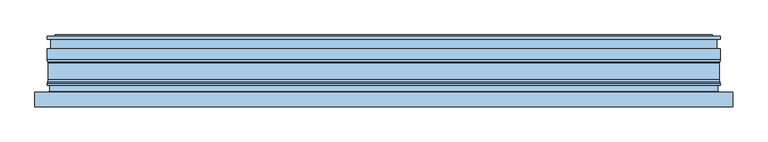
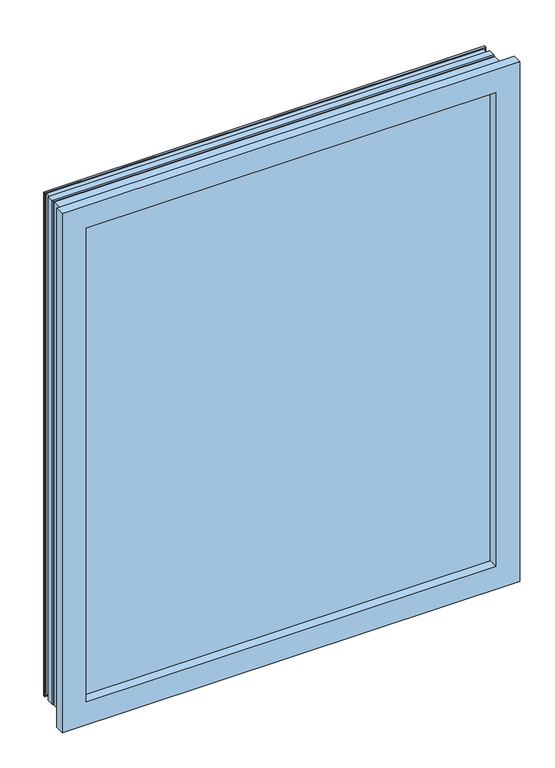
"""IFC4 building model written with IfcOpenShell, lengths in millimetres: window geometry, Comfort+_CVI-1_Metaglas : KozijnMerk."""

import ifcopenshell
import ifcopenshell.guid

model = None  # the IFC model being written
_history = None  # IfcOwnerHistory: only IFC2X3 demands one
_inside = {}  # id of a spatial element -> (the spatial element, [elements in it])
_under = {}  # id of a project, library or spatial element -> (it, [spatial elements below it])
_declared = {}  # id of a project -> (the project, [libraries it declares])
_typed = {}  # id of a type object -> (the type object, [elements of that type])
_made_of = {}  # id of a material, layer set ... -> (it, [elements and type objects made of it])


def new_model(schema):
    """Start an empty IFC model of exactly this schema.

    Asked for "IFC4X3", IfcOpenShell would pick the latest addendum, in which some entities
    have other attributes; the version numbers below select the first issue.
    IFC2X3 requires an IfcOwnerHistory on every rooted entity: one is made here for all.
    """
    global model, _history
    if schema == "IFC4X3":
        model = ifcopenshell.file(schema_version=(4, 3, 0, 0))
    else:
        model = ifcopenshell.file(schema=schema)
    _inside.clear()
    _under.clear()
    _declared.clear()
    _typed.clear()
    _made_of.clear()
    _history = None
    if model.schema == "IFC2X3":
        org = make("IfcOrganization", Name="unknown")
        user = make(
            "IfcPersonAndOrganization",
            ThePerson=make("IfcPerson", FamilyName="unknown"),
            TheOrganization=org,
        )
        app = make(
            "IfcApplication",
            ApplicationDeveloper=org,
            Version="unknown",
            ApplicationFullName="unknown",
            ApplicationIdentifier="unknown",
        )
        _history = make(
            "IfcOwnerHistory",
            OwningUser=user,
            OwningApplication=app,
            ChangeAction="ADDED",
            CreationDate=0,
        )
    return model


def make(cls, **values):
    """One entity of the class cls with the attributes given. An attribute that is None is left unset."""
    return model.create_entity(
        cls, **{name: value for name, value in values.items() if value is not None}
    )


def rooted(cls, **values):
    """An entity with a GlobalId (a new one), such as an element, a storey or a relation."""
    return make(cls, GlobalId=ifcopenshell.guid.new(), OwnerHistory=_history, **values)


def si_unit(unit_type, name, prefix=None):
    """IfcSIUnit, for example si_unit("LENGTHUNIT", "METRE", prefix="MILLI")."""
    return make("IfcSIUnit", UnitType=unit_type, Prefix=prefix, Name=name)


def assignment(units):
    """IfcUnitAssignment: the units of a project."""
    return None if units is None else make("IfcUnitAssignment", Units=units)


def point(xyz):
    """IfcCartesianPoint."""
    return None if xyz is None else make("IfcCartesianPoint", Coordinates=xyz)


def direction(xyz):
    """IfcDirection."""
    return None if xyz is None else make("IfcDirection", DirectionRatios=xyz)


def frame(location, z_axis=None, x_axis=None):
    """IfcAxis2Placement3D, a coordinate frame: its origin and axes. An axis left out is left unset."""
    return make(
        "IfcAxis2Placement3D",
        Location=point(location),
        Axis=direction(z_axis),
        RefDirection=direction(x_axis),
    )


def origin():
    """The frame at (0, 0, 0) with its axes left unset."""
    return frame((0.0, 0.0, 0.0))


def place(relative_to, where):
    """IfcLocalPlacement: puts the frame where relative to a parent placement (None: the world)."""
    return make(
        "IfcLocalPlacement", PlacementRelTo=relative_to, RelativePlacement=where
    )


def context(
    kind, dimensions, precision=None, world=None, true_north=None, identifier=None
):
    """IfcGeometricRepresentationContext, for example the 3D "Model" context."""
    return make(
        "IfcGeometricRepresentationContext",
        ContextIdentifier=identifier,
        ContextType=kind,
        CoordinateSpaceDimension=dimensions,
        Precision=precision,
        WorldCoordinateSystem=world,
        TrueNorth=true_north,
    )


def project(units=None, contexts=None):
    """IfcProject with its units and contexts."""
    return rooted(
        "IfcProject",
        Name="project",
        RepresentationContexts=contexts,
        UnitsInContext=assignment(units),
    )


def spatial(cls, under=None, at=None, **own):
    """A site, building, storey or space (cls), placed at a placement, below another one or the project."""
    s = rooted(cls, ObjectPlacement=at, **own)
    if under is not None:
        _under.setdefault(under.id(), (under, []))[1].append(s)
    return s


def polyline(points):
    """IfcPolyline through the points."""
    return make("IfcPolyline", Points=[point(p) for p in points])


def outline(outer, holes=None, kind="AREA"):
    """IfcArbitraryClosedProfileDef: a profile drawn as a closed curve; with holes, ...WithVoids."""
    if holes is None:
        return make("IfcArbitraryClosedProfileDef", ProfileType=kind, OuterCurve=outer)
    return make(
        "IfcArbitraryProfileDefWithVoids",
        ProfileType=kind,
        OuterCurve=outer,
        InnerCurves=holes,
    )


def extrude(swept, where, along, depth):
    """IfcExtrudedAreaSolid: the profile swept, set in the frame where, extruded along a direction by depth."""
    return make(
        "IfcExtrudedAreaSolid",
        SweptArea=swept,
        Position=where,
        ExtrudedDirection=direction(along),
        Depth=depth,
    )


def faces_of(points, faces, orient=None, outer=None):
    """IfcFace entities. A face is a list of loops; a loop is a list of indices into points, from 0.

    orient and outer hold one flag for each loop. By default every Orientation is true, the
    first loop of a face is its IfcFaceOuterBound and the others are IfcFaceBound.
    """
    made = []
    for i, loops in enumerate(faces):
        bounds = []
        for j, loop in enumerate(loops):
            is_outer = j == 0 if outer is None else outer[i][j]
            bounds.append(
                make(
                    "IfcFaceOuterBound" if is_outer else "IfcFaceBound",
                    Bound=make("IfcPolyLoop", Polygon=[points[k] for k in loop]),
                    Orientation=True if orient is None else orient[i][j],
                )
            )
        made.append(make("IfcFace", Bounds=bounds))
    return made


def faceted_brep(points, faces, orient=None, outer=None, voids=None):
    """IfcFacetedBrep: a solid bounded by flat faces; with voids (closed shells), ...WithVoids."""
    shared = [point(p) for p in points]
    hull = make("IfcClosedShell", CfsFaces=faces_of(shared, faces, orient, outer))
    if voids is None:
        return make("IfcFacetedBrep", Outer=hull)
    return make(
        "IfcFacetedBrepWithVoids",
        Outer=hull,
        Voids=[
            make(cls, CfsFaces=faces_of(shared, fs, o, b)) for cls, fs, o, b in voids
        ],
    )


def shape(context_of_items, identifier, shape_type, items):
    """IfcShapeRepresentation: the items that make up one representation, for example the "Body"."""
    return make(
        "IfcShapeRepresentation",
        ContextOfItems=context_of_items,
        RepresentationIdentifier=identifier,
        RepresentationType=shape_type,
        Items=items,
    )


def source(mapping_origin, context_of_items, identifier, shape_type, items):
    """IfcRepresentationMap: a shape defined once, which mapped items show again and again."""
    return make(
        "IfcRepresentationMap",
        MappingOrigin=mapping_origin,
        MappedRepresentation=shape(context_of_items, identifier, shape_type, items),
    )


def transform(
    local_origin,
    x_axis=None,
    y_axis=None,
    z_axis=None,
    scale=None,
    scale2=None,
    scale3=None,
    uniform=True,
):
    """IfcCartesianTransformationOperator3D, or its non-uniform kind. x_axis, y_axis, z_axis: its Axis1, 2, 3."""
    if uniform:
        return make(
            "IfcCartesianTransformationOperator3D",
            Axis1=direction(x_axis),
            Axis2=direction(y_axis),
            LocalOrigin=point(local_origin),
            Scale=scale,
            Axis3=direction(z_axis),
        )
    return make(
        "IfcCartesianTransformationOperator3DnonUniform",
        Axis1=direction(x_axis),
        Axis2=direction(y_axis),
        LocalOrigin=point(local_origin),
        Scale=scale,
        Axis3=direction(z_axis),
        Scale2=scale2,
        Scale3=scale3,
    )


def mapped(mapping_source, mapping_target):
    """IfcMappedItem: shows the shape of a source again, moved by a transform."""
    return make(
        "IfcMappedItem", MappingSource=mapping_source, MappingTarget=mapping_target
    )


def made_of(thing, what):
    """Note that an element or type object is made of a material, layer set ...; save() writes the relation."""
    if what is not None:
        _made_of.setdefault(what.id(), (what, []))[1].append(thing)
    return thing


def element(
    cls,
    number,
    at=None,
    inside=None,
    cuts=None,
    type_object=None,
    material=None,
    context=None,
    identifier="Body",
    shape_type=None,
    held_by="IfcProductDefinitionShape",
    body=None,
    shapes=None,
    **own,
):
    """One element of the class cls, such as IfcWall. Its Tag is "e" and its number.

    at: its placement. inside: the storey or other place that contains it. cuts: it is an
    opening in that element (IfcRelVoidsElement). A single representation is given by context,
    identifier, shape_type and body (its items); several are given by shapes. held_by: the class
    of the entity that holds the representations. save() writes the other relations.
    """
    e = rooted(cls, Tag="e%d" % number, ObjectPlacement=at, **own)
    if body is not None:
        shapes = [shape(context, identifier, shape_type, body)]
    if shapes is not None:
        e.Representation = make(held_by, Representations=shapes)
    if inside is not None:
        _inside.setdefault(inside.id(), (inside, []))[1].append(e)
    if cuts is not None:
        rooted(
            "IfcRelVoidsElement", RelatingBuildingElement=cuts, RelatedOpeningElement=e
        )
    if type_object is not None:
        _typed.setdefault(type_object.id(), (type_object, []))[1].append(e)
    return made_of(e, material)


def aggregate(whole, parts):
    """IfcRelAggregates: a whole, such as a stair, and the parts it consists of."""
    return rooted("IfcRelAggregates", RelatingObject=whole, RelatedObjects=parts)


def save(model, path):
    """Write the relations noted so far, then the file.

    IfcRelAggregates (storeys below a building ...), IfcRelContainedInSpatialStructure (elements
    in a storey), IfcRelDefinesByType, IfcRelAssociatesMaterial and IfcRelDeclares: one each for
    every whole, place, type object, material and project.
    """
    for whole, parts in _under.values():
        aggregate(whole, parts)
    for where, things in _inside.values():
        rooted(
            "IfcRelContainedInSpatialStructure",
            RelatedElements=things,
            RelatingStructure=where,
        )
    for kind, things in _typed.values():
        rooted("IfcRelDefinesByType", RelatedObjects=things, RelatingType=kind)
    for what, things in _made_of.values():
        rooted("IfcRelAssociatesMaterial", RelatedObjects=things, RelatingMaterial=what)
    for by, libraries in _declared.values():
        rooted("IfcRelDeclares", RelatingContext=by, RelatedDefinitions=libraries)
    model.write(path)


def window_ad6b3518(model_context):
    return source(origin(), model_context, "Body", "SolidModel", [
        extrude(outline(polyline([(464.0, -22.0), (-464.0, -22.0), (-464.0, -16.0), (464.0, -16.0), (464.0, -22.0)])), frame((0.0, 0.0, 836.0), z_axis=(0.0, 0.0, 1.0), x_axis=(1.0, 0.0, 0.0)), (0.0, 0.0, 1.0), 1128.0),
        extrude(outline(polyline([(464.0, -1.0), (-464.0, -1.0), (-464.0, 3.5), (464.0, 3.5), (464.0, -1.0)])), frame((0.0, 0.0, 836.0), z_axis=(0.0, 0.0, 1.0), x_axis=(1.0, 0.0, 0.0)), (0.0, 0.0, 1.0), 1128.0),
        extrude(outline(polyline([(464.0, 18.5), (-464.0, 18.5), (-464.0, 24.5), (464.0, 24.5), (464.0, 18.5)])), frame((0.0, 0.0, 836.0), z_axis=(0.0, 0.0, 1.0), x_axis=(1.0, 0.0, 0.0)), (0.0, 0.0, 1.0), 1128.0),
        extrude(outline(polyline([(1964.0, 464.0), (1964.0, -464.0), (836.0, -464.0), (836.0, 464.0), (1964.0, 464.0)]), holes=[polyline([(848.0, 452.0), (848.0, -452.0), (1952.0, -452.0), (1952.0, 452.0), (848.0, 452.0)])]), frame((0.0, -16.0, 0.0), z_axis=(0.0, 1.0, 0.0), x_axis=(0.0, 0.0, 1.0)), (0.0, 0.0, 1.0), 15.0),
        extrude(outline(polyline([(1964.0, 464.0), (1964.0, -464.0), (836.0, -464.0), (836.0, 464.0), (1964.0, 464.0)]), holes=[polyline([(848.0, 452.0), (848.0, -452.0), (1952.0, -452.0), (1952.0, 452.0), (848.0, 452.0)])]), frame((0.0, 3.5, 0.0), z_axis=(0.0, 1.0, 0.0), x_axis=(0.0, 0.0, 1.0)), (0.0, 0.0, 1.0), 15.0),
        faceted_brep([(-500.0, -29.0, 2000.0), (-500.0, -29.0, 800.0), (-500.0, -50.0, 800.0), (-500.0, -50.0, 2000.0), (500.0, -50.0, 800.0), (500.0, -50.0, 2000.0), (-447.0, -50.0, 853.0), (-447.0, -50.0, 1947.0), (447.0, -50.0, 1947.0), (447.0, -50.0, 853.0), (500.0, -29.0, 800.0), (500.0, -29.0, 2000.0), (-492.8725928, -29.0, 1992.8725928), (-492.8725928, -29.0, 807.1274072), (492.8725928, -29.0, 807.1274072), (492.8725928, -29.0, 1992.8725928), (-492.8725928, -32.3751885, 1992.8725928), (-492.8725928, -32.3751885, 807.1274072), (492.8725928, -32.3751885, 807.1274072), (492.8725928, -32.3751885, 1992.8725928), (-489.0089631, -32.3751885, 1989.0089631), (-489.0089631, -32.3751885, 810.9910369), (489.0089631, -32.3751885, 810.9910369), (489.0089631, -32.3751885, 1989.0089631), (-489.0089631, -29.0, 1989.0089631), (-489.0089631, -29.0, 810.9910369), (489.0089631, -29.0, 810.9910369), (489.0089631, -29.0, 1989.0089631), (-482.0, -29.0, 1982.0), (-482.0, -29.0, 818.0), (482.0, -29.0, 818.0), (482.0, -29.0, 1982.0), (-478.7291119, -27.9608904, 1978.7291119), (-478.7291119, -27.9608904, 821.2708881), (478.7291119, -27.9608904, 821.2708881), (-478.7291119, -19.1940428, 1978.7291119), (-478.7291119, -19.1940428, 821.2708881), (478.7291119, -19.1940428, 821.2708881), (-481.9999978, -19.1940428, 1981.9999978), (-481.9999978, -19.1940428, 818.0000022), (481.9999978, -19.1940428, 818.0000022), (481.9999978, -19.1940428, 1981.9999978), (478.7291119, -19.1940428, 1978.7291119), (-481.9999978, -16.7500005, 1981.9999978), (-481.9999978, -16.7500005, 818.0000022), (481.9999978, -16.7500005, 818.0000022), (-481.373404, -14.4793407, 1981.373404), (-481.373404, -14.4793407, 818.626596), (481.373404, -14.4793407, 818.626596), (-481.1951446, -11.4659389, 1981.1951446), (-481.1951446, -11.4659389, 818.8048554), (481.1951446, -11.4659389, 818.8048554), (-481.1951446, 12.4143973, 1981.1951446), (-481.1951446, 12.4143973, 818.8048554), (481.1951446, 12.4143973, 818.8048554), (-481.3787921, 13.9100865, 1981.3787921), (-481.3787921, 13.9100865, 818.6212079), (481.3787921, 13.9100865, 818.6212079), (-482.0, 17.75, 1982.0), (-482.0, 17.75, 818.0), (482.0, 17.75, 818.0), (-482.0, 33.0, 1982.0), (-482.0, 33.0, 818.0), (482.0, 33.0, 818.0), (482.0, 33.0, 1982.0), (-480.5, 33.0, 1980.5), (-480.5, 33.0, 819.5), (480.5, 33.0, 819.5), (480.5, 33.0, 1980.5), (-480.5, 31.0, 1980.5), (-480.5, 31.0, 819.5), (480.5, 31.0, 819.5), (480.5, 31.0, 1980.5), (-477.5, 31.0, 1977.5), (-477.5, 31.0, 822.5), (477.5, 31.0, 822.5), (477.5, 31.0, 1977.5), (-477.5, 49.0, 1977.5), (-477.5, 49.0, 822.5), (477.5, 49.0, 822.5), (-480.5, 49.0, 1980.5), (-480.5, 49.0, 819.5), (480.5, 49.0, 819.5), (480.5, 49.0, 1980.5), (477.5, 49.0, 1977.5), (-480.5, 47.0, 1980.5), (-480.5, 47.0, 819.5), (480.5, 47.0, 819.5), (-482.0, 47.0, 1982.0), (-482.0, 47.0, 818.0), (482.0, 47.0, 818.0), (482.0, 47.0, 1982.0), (480.5, 47.0, 1980.5), (-482.0, 51.0, 1982.0), (-482.0, 51.0, 818.0), (482.0, 51.0, 818.0), (482.0, 51.0, 1982.0), (-471.1687709, 51.0, 1971.1687709), (-471.1687709, 51.0, 828.8312291), (471.1687709, 51.0, 828.8312291), (471.1687709, 51.0, 1971.1687709), (-471.1687709, 53.0, 1971.1687709), (-471.1687709, 53.0, 828.8312291), (471.1687709, 53.0, 828.8312291), (471.1687709, 53.0, 1971.1687709), (-447.0, 53.0, 1947.0), (-447.0, 53.0, 853.0), (447.0, 53.0, 853.0), (447.0, 53.0, 1947.0), (-447.0, 31.9, 1947.0), (-447.0, 31.9, 853.0), (447.0, 31.9, 853.0), (-450.6430941, 31.9, 1950.6430941), (-450.6430941, 31.9, 849.3569059), (450.6430941, 31.9, 849.3569059), (450.6430941, 31.9, 1950.6430941), (447.0, 31.9, 1947.0), (-450.6430941, 38.7, 1950.6430941), (-450.6430941, 38.7, 849.3569059), (450.6430941, 38.7, 849.3569059), (-454.4569059, 38.7, 1954.4569059), (-454.4569059, 38.7, 845.5430941), (454.4569059, 38.7, 845.5430941), (454.4569059, 38.7, 1954.4569059), (450.6430941, 38.7, 1950.6430941), (-454.4569059, 31.9, 1954.4569059), (-454.4569059, 31.9, 845.5430941), (454.4569059, 31.9, 845.5430941), (-465.0, 31.9, 1965.0), (-465.0, 31.9, 835.0), (465.0, 31.9, 835.0), (465.0, 31.9, 1965.0), (454.4569059, 31.9, 1954.4569059), (-465.0, 17.75, 1965.0), (-465.0, 17.75, 835.0), (465.0, 17.75, 835.0), (-465.6212079, 13.9100865, 1965.6212079), (-465.6212079, 13.9100865, 834.3787921), (465.6212079, 13.9100865, 834.3787921), (-465.8048554, 12.4143973, 1965.8048554), (-465.8048554, 12.4143973, 834.1951446), (465.8048554, 12.4143973, 834.1951446), (-465.8048554, -11.4659389, 1965.8048554), (-465.8048554, -11.4659389, 834.1951446), (465.8048554, -11.4659389, 834.1951446), (-465.626596, -14.4793407, 1965.626596), (-465.626596, -14.4793407, 834.373404), (465.626596, -14.4793407, 834.373404), (-465.0000022, -16.7500005, 1965.0000022), (-465.0000022, -16.7500005, 834.9999978), (465.0000022, -16.7500005, 834.9999978), (-465.0000022, -19.1940428, 1965.0000022), (-465.0000022, -19.1940428, 834.9999978), (465.0000022, -19.1940428, 834.9999978), (-468.2708881, -19.1940428, 1968.2708881), (-468.2708881, -19.1940428, 831.7291119), (468.2708881, -19.1940428, 831.7291119), (468.2708881, -19.1940428, 1968.2708881), (465.0000022, -19.1940428, 1965.0000022), (-468.2708881, -27.9608904, 1968.2708881), (-468.2708881, -27.9608904, 831.7291119), (468.2708881, -27.9608904, 831.7291119), (-465.0, -29.0, 1965.0), (-465.0, -29.0, 835.0), (465.0, -29.0, 835.0), (465.0, -29.0, 1965.0), (-457.9910369, -29.0, 1957.9910369), (-457.9910369, -29.0, 842.0089631), (457.9910369, -29.0, 842.0089631), (457.9910369, -29.0, 1957.9910369), (-457.9910369, -32.3751885, 1957.9910369), (-457.9910369, -32.3751885, 842.0089631), (457.9910369, -32.3751885, 842.0089631), (457.9910369, -32.3751885, 1957.9910369), (-454.1274072, -32.3751885, 1954.1274072), (-454.1274072, -32.3751885, 845.8725928), (454.1274072, -32.3751885, 845.8725928), (454.1274072, -32.3751885, 1954.1274072), (-454.1274072, -29.0, 1954.1274072), (-454.1274072, -29.0, 845.8725928), (454.1274072, -29.0, 845.8725928), (454.1274072, -29.0, 1954.1274072), (-447.0, -29.0, 1947.0), (-447.0, -29.0, 853.0), (447.0, -29.0, 853.0), (447.0, -29.0, 1947.0), (478.7291119, -27.9608904, 1978.7291119), (481.9999978, -16.7500005, 1981.9999978), (481.373404, -14.4793407, 1981.373404), (481.1951446, -11.4659389, 1981.1951446), (481.1951446, 12.4143973, 1981.1951446), (481.3787921, 13.9100865, 1981.3787921), (482.0, 17.75, 1982.0), (465.0, 17.75, 1965.0), (465.6212079, 13.9100865, 1965.6212079), (465.8048554, 12.4143973, 1965.8048554), (465.8048554, -11.4659389, 1965.8048554), (465.626596, -14.4793407, 1965.626596), (465.0000022, -16.7500005, 1965.0000022), (468.2708881, -27.9608904, 1968.2708881)], [[[0, 1, 2, 3]], [[3, 2, 4, 5], [6, 7, 8, 9]], [[1, 10, 4, 2]], [[1, 0, 11, 10], [12, 13, 14, 15]], [[16, 17, 13, 12]], [[17, 18, 14, 13]], [[17, 16, 19, 18], [20, 21, 22, 23]], [[24, 25, 21, 20]], [[25, 26, 22, 21]], [[25, 24, 27, 26], [28, 29, 30, 31]], [[32, 33, 29, 28]], [[33, 34, 30, 29]], [[35, 36, 33, 32]], [[36, 37, 34, 33]], [[38, 39, 40, 41], [36, 35, 42, 37]], [[43, 44, 39, 38]], [[44, 45, 40, 39]], [[46, 47, 44, 43]], [[47, 48, 45, 44]], [[49, 50, 47, 46]], [[50, 51, 48, 47]], [[52, 53, 50, 49]], [[53, 54, 51, 50]], [[55, 56, 53, 52]], [[56, 57, 54, 53]], [[58, 59, 56, 55]], [[59, 60, 57, 56]], [[61, 62, 59, 58]], [[62, 63, 60, 59]], [[62, 61, 64, 63], [65, 66, 67, 68]], [[69, 70, 66, 65]], [[70, 71, 67, 66]], [[70, 69, 72, 71], [73, 74, 75, 76]], [[77, 78, 74, 73]], [[78, 79, 75, 74]], [[80, 81, 82, 83], [78, 77, 84, 79]], [[85, 86, 81, 80]], [[86, 87, 82, 81]], [[88, 89, 90, 91], [86, 85, 92, 87]], [[93, 94, 89, 88]], [[94, 95, 90, 89]], [[94, 93, 96, 95], [97, 98, 99, 100]], [[101, 102, 98, 97]], [[102, 103, 99, 98]], [[102, 101, 104, 103], [105, 106, 107, 108]], [[109, 110, 106, 105]], [[110, 111, 107, 106]], [[112, 113, 114, 115], [110, 109, 116, 111]], [[117, 118, 113, 112]], [[118, 119, 114, 113]], [[120, 121, 122, 123], [118, 117, 124, 119]], [[125, 126, 121, 120]], [[126, 127, 122, 121]], [[128, 129, 130, 131], [126, 125, 132, 127]], [[133, 134, 129, 128]], [[134, 135, 130, 129]], [[136, 137, 134, 133]], [[137, 138, 135, 134]], [[139, 140, 137, 136]], [[140, 141, 138, 137]], [[142, 143, 140, 139]], [[143, 144, 141, 140]], [[145, 146, 143, 142]], [[146, 147, 144, 143]], [[148, 149, 146, 145]], [[149, 150, 147, 146]], [[151, 152, 149, 148]], [[152, 153, 150, 149]], [[154, 155, 156, 157], [152, 151, 158, 153]], [[159, 160, 155, 154]], [[160, 161, 156, 155]], [[162, 163, 160, 159]], [[163, 164, 161, 160]], [[163, 162, 165, 164], [166, 167, 168, 169]], [[170, 171, 167, 166]], [[171, 172, 168, 167]], [[171, 170, 173, 172], [174, 175, 176, 177]], [[178, 179, 175, 174]], [[179, 180, 176, 175]], [[179, 178, 181, 180], [182, 183, 184, 185]], [[7, 6, 183, 182]], [[6, 9, 184, 183]], [[10, 11, 5, 4]], [[18, 19, 15, 14]], [[26, 27, 23, 22]], [[34, 186, 31, 30]], [[37, 42, 186, 34]], [[45, 187, 41, 40]], [[48, 188, 187, 45]], [[51, 189, 188, 48]], [[54, 190, 189, 51]], [[57, 191, 190, 54]], [[60, 192, 191, 57]], [[63, 64, 192, 60]], [[71, 72, 68, 67]], [[79, 84, 76, 75]], [[87, 92, 83, 82]], [[95, 96, 91, 90]], [[103, 104, 100, 99]], [[111, 116, 108, 107]], [[119, 124, 115, 114]], [[127, 132, 123, 122]], [[135, 193, 131, 130]], [[138, 194, 193, 135]], [[141, 195, 194, 138]], [[144, 196, 195, 141]], [[147, 197, 196, 144]], [[150, 198, 197, 147]], [[153, 158, 198, 150]], [[161, 199, 157, 156]], [[164, 165, 199, 161]], [[172, 173, 169, 168]], [[180, 181, 177, 176]], [[9, 8, 185, 184]], [[11, 0, 3, 5]], [[19, 16, 12, 15]], [[27, 24, 20, 23]], [[186, 32, 28, 31]], [[42, 35, 32, 186]], [[187, 43, 38, 41]], [[188, 46, 43, 187]], [[189, 49, 46, 188]], [[190, 52, 49, 189]], [[191, 55, 52, 190]], [[192, 58, 55, 191]], [[64, 61, 58, 192]], [[72, 69, 65, 68]], [[84, 77, 73, 76]], [[92, 85, 80, 83]], [[96, 93, 88, 91]], [[104, 101, 97, 100]], [[116, 109, 105, 108]], [[124, 117, 112, 115]], [[132, 125, 120, 123]], [[193, 133, 128, 131]], [[194, 136, 133, 193]], [[195, 139, 136, 194]], [[196, 142, 139, 195]], [[197, 145, 142, 196]], [[198, 148, 145, 197]], [[158, 151, 148, 198]], [[199, 159, 154, 157]], [[165, 162, 159, 199]], [[173, 170, 166, 169]], [[181, 178, 174, 177]], [[8, 7, 182, 185]]]),
    ])


if __name__ == "__main__":
    model = new_model("IFC4")
    model_context = context("Model", 3, world=origin())
    ifc_project = project(units=[si_unit("LENGTHUNIT", "METRE", prefix="MILLI")], contexts=[model_context])
    site = spatial("IfcSite", under=ifc_project)
    building = spatial("IfcBuilding", under=site)
    placement = place(None, origin())
    window_shape = window_ad6b3518(model_context)
    element("IfcWindow", 1, ObjectType="Comfort+_CVI-1_Metaglas : KozijnMerk", at=placement, inside=building, context=model_context, shape_type="MappedRepresentation", body=[
        mapped(window_shape, transform((0.0, 0.0, 0.0), x_axis=(1.0, 0.0, 0.0), y_axis=(0.0, 1.0, 0.0), z_axis=(0.0, 0.0, 1.0))),
    ])
    save(model, "model.ifc")
